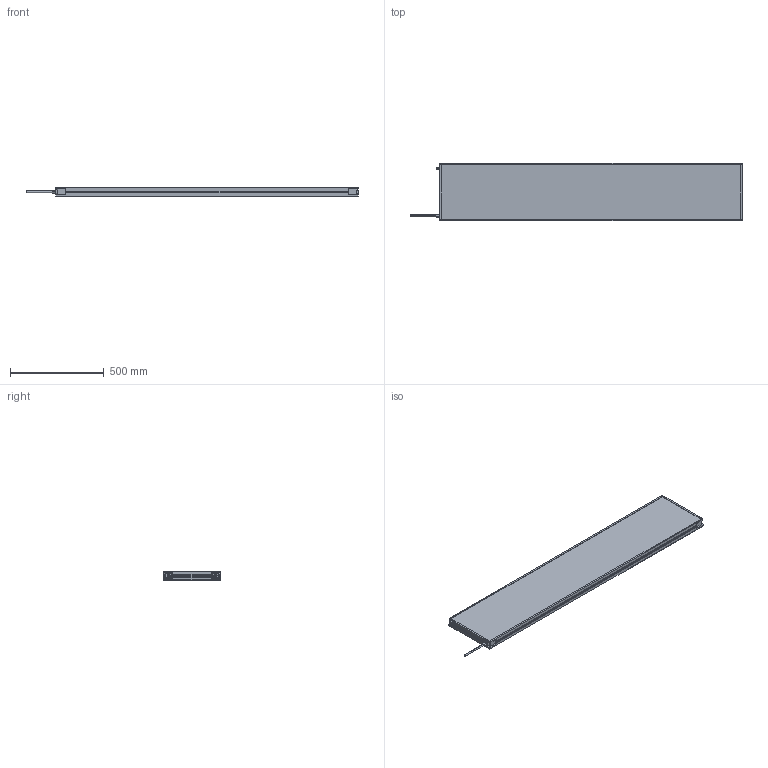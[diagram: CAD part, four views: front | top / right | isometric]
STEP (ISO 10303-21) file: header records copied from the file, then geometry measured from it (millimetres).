
FILE_DESCRIPTION (( 'STEP AP214' ), '1' );
FILE_NAME ('MBACK-xxxx-xxx-M1A2_CLIENT300x1600.STEP', '2022-04-01T11:32:54', ( '' ), ( '' ), 'SwSTEP 2.0', 'SolidWorks 2020', '' );
FILE_SCHEMA (( 'AUTOMOTIVE_DESIGN' ));
Length unit declared in the file: millimetre
Products named in the file (1): MBACK-xxxx-xxx-M1A2_CLIENT300x1600
Bounding box: 1767.4 x 308 x 45.5 mm (x, y, z)
Volume: 20589333.3 mm3; surface area: 1251027.5 mm2
Topology: 1 solids, 1 shells, 470 faces, 1210 edges, 804 vertices
Faces by surface type: plane 265, cylinder 117, bspline 80, cone 8
Entity records: 18046 total; most frequent: CARTESIAN_POINT 6837, ORIENTED_EDGE 2420, DIRECTION 2082, EDGE_CURVE 1210, VERTEX_POINT 804, LINE 800, VECTOR 800, AXIS2_PLACEMENT_3D 641
